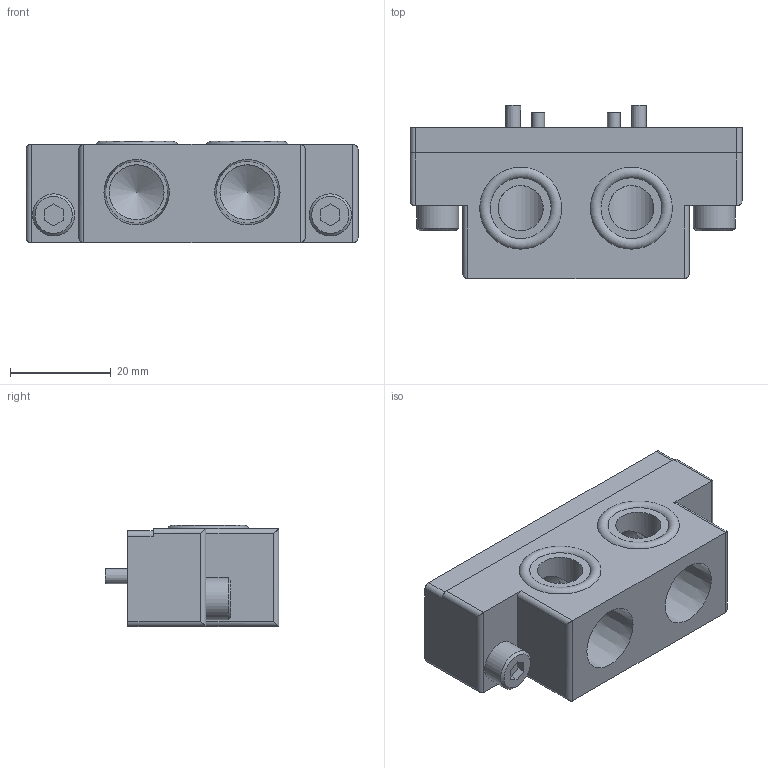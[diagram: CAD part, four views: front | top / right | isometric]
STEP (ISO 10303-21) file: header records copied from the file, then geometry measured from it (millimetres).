
FILE_DESCRIPTION(('STEP AP214'),'1');
FILE_NAME('KHF-12HS-EP82_ver1.stp','2026-04-27T04:54:47',(' '),(' '),'Spatial InterOp 3D',' ',' ');
FILE_SCHEMA(('AUTOMOTIVE_DESIGN { 1 0 10303 214 1 1 1 1 }'));
Length unit declared in the file: millimetre
Products named in the file (1): KHF-12HS-EP82_ver1
Bounding box: 66 x 34.5 x 20.1 mm (x, y, z)
Volume: 27610.5 mm3; surface area: 10440 mm2
Topology: 1 solids, 9 shells, 128 faces, 268 edges, 176 vertices
Faces by surface type: plane 76, cylinder 38, cone 12, torus 2
Full cylindrical faces by diameter (mm): 2.5 x4, 3.5 x2, 4 x2, 4.2 x2, 5.41 x2, 5.5 x2, 6.5 x2, 8.385 x2, 9 x2, 10.9 x2
Entity records: 4300 total; most frequent: CARTESIAN_POINT 673, DIRECTION 558, ORIENTED_EDGE 430, AXIS2_PLACEMENT_3D 216, EDGE_CURVE 215, EDGE_LOOP 192, VERTEX_POINT 163, FACE_OUTER_BOUND 152
